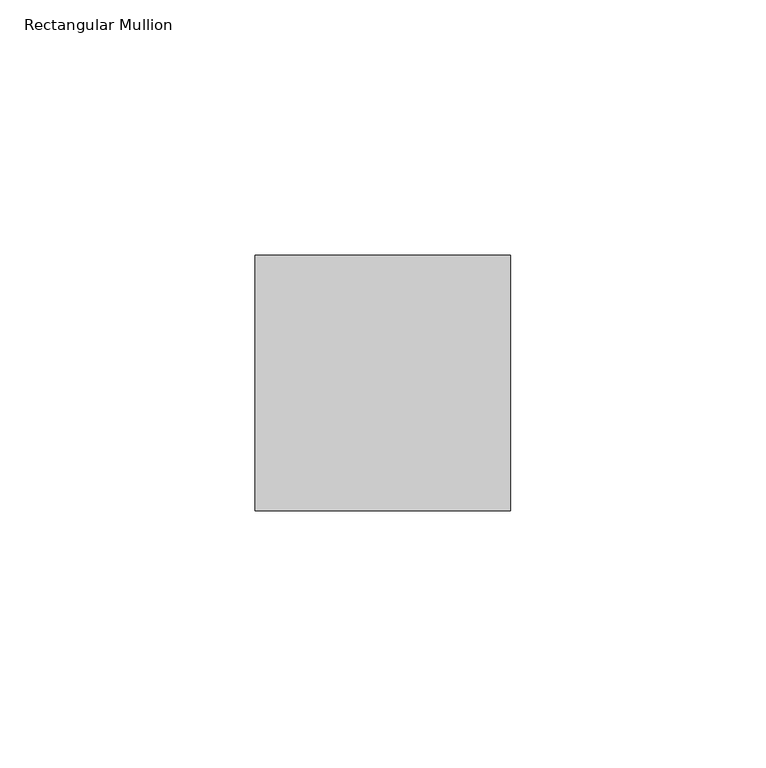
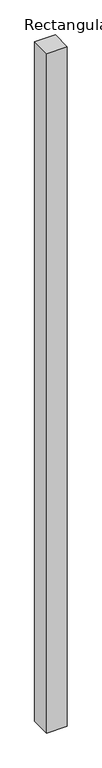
"""IFC4 building model written with IfcOpenShell, lengths in millimetres: member geometry, Rectangular Mullion : Mullion_Curtain Wall_Generic Showcase_50x50mm."""

from ifc_helpers import new_model, si_unit, frame, origin, place, context, project, spatial, polyline, outline, extrude, source, transform, mapped, element, save


def rectangular_mullion_ff0ddd38(model_context):
    return source(origin(), model_context, "Body", "SweptSolid", [
        extrude(outline(polyline([(25.0, 0.0), (25.0, -50.0), (-25.0, -50.0), (-25.0, 0.0), (25.0, 0.0)])), frame((0.0, 0.0, -1738.479996), z_axis=(0.0, 0.0, 1.0), x_axis=(1.0, 0.0, 0.0)), (0.0, 0.0, 1.0), 1738.479996),
    ])


if __name__ == "__main__":
    model = new_model("IFC4")
    model_context = context("Model", 3, world=origin())
    ifc_project = project(units=[si_unit("LENGTHUNIT", "METRE", prefix="MILLI")], contexts=[model_context])
    site = spatial("IfcSite", under=ifc_project)
    building = spatial("IfcBuilding", under=site)
    placement = place(None, origin())
    rectangular_mullion_shape = rectangular_mullion_ff0ddd38(model_context)
    element("IfcMember", 1, ObjectType="Rectangular Mullion : Mullion_Curtain Wall_Generic Showcase_50x50mm", at=placement, inside=building, context=model_context, shape_type="MappedRepresentation", body=[
        mapped(rectangular_mullion_shape, transform((0.0, 0.0, 0.0), x_axis=(1.0, 0.0, 0.0), y_axis=(0.0, 1.0, 0.0), z_axis=(0.0, 0.0, 1.0))),
    ])
    save(model, "model.ifc")
